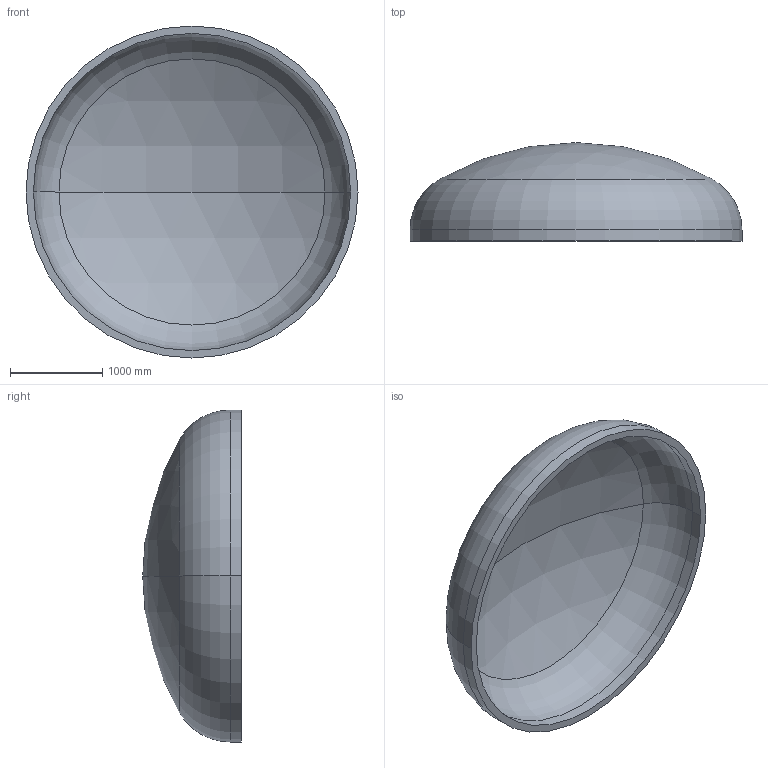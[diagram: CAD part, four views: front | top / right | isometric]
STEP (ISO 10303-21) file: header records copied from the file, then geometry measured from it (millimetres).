
FILE_DESCRIPTION (( 'STEP AP203' ), '1' );
FILE_NAME ('DIN 28013 Korbbogenform_-_Boden DIN 28013 - 3600 x 120 - I - s=80.step', '2016-07-01T20:42:07', ( '' ), ( '' ), 'SwSTEP 2.0', 'SolidWorks 2013', '' );
FILE_SCHEMA (( 'CONFIG_CONTROL_DESIGN' ));
Length unit declared in the file: millimetre
Products named in the file (1): DIN 28013 Korbbogenform_-_Boden DIN 28013 - 3600 x 120 - I - s=80
Bounding box: 3600 x 1067.94 x 3600 mm (x, y, z)
Volume: 1201726488.9 mm3; surface area: 30941228.6 mm2
Topology: 1 solids, 1 shells, 13 faces, 24 edges, 14 vertices
Faces by surface type: torus 4, cylinder 4, sphere 4, plane 1
Entity records: 407 total; most frequent: DIRECTION 72, CARTESIAN_POINT 52, ORIENTED_EDGE 48, AXIS2_PLACEMENT_3D 34, EDGE_CURVE 24, CIRCLE 20, VERTEX_POINT 14, EDGE_LOOP 14
